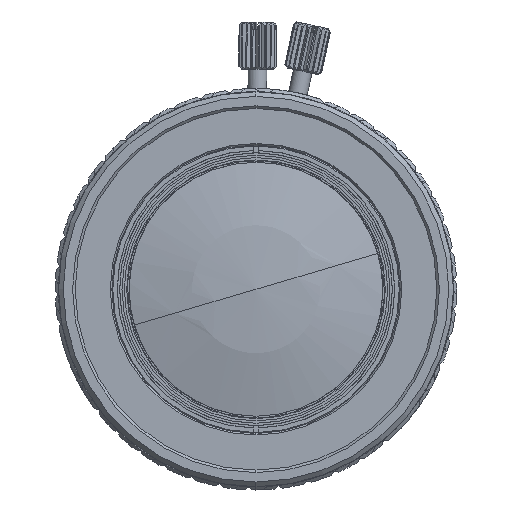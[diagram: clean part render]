
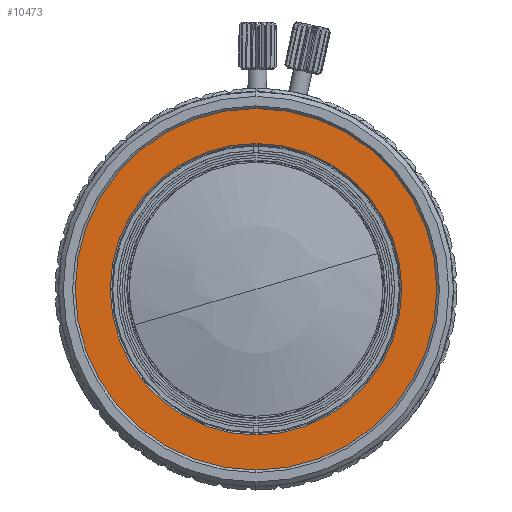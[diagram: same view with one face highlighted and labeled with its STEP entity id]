
A CAD part, left-side view. The second image highlights one B-rep face of the part: STEP entity #10473.
In plain terms, the highlighted planar face has unit normal (-1, 0, 0).
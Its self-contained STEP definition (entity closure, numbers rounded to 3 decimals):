
#9194=CARTESIAN_POINT('',(-3.25,0.,0.));
#9195=DIRECTION('',(-1.,0.,0.));
#9196=DIRECTION('',(0.,0.,1.));
#9197=AXIS2_PLACEMENT_3D('',#9194,#9195,#9196);
#9199=CARTESIAN_POINT('',(-3.25,0.,0.));
#9200=DIRECTION('',(-1.,0.,0.));
#9201=DIRECTION('',(0.,0.,-1.));
#9202=AXIS2_PLACEMENT_3D('',#9199,#9200,#9201);
#9204=CARTESIAN_POINT('',(-3.25,0.,0.));
#9205=DIRECTION('',(1.,0.,0.));
#9206=DIRECTION('',(0.,0.,1.));
#9207=AXIS2_PLACEMENT_3D('',#9204,#9205,#9206);
#9209=CARTESIAN_POINT('',(-3.25,0.,0.));
#9210=DIRECTION('',(1.,0.,0.));
#9211=DIRECTION('',(0.,0.,-1.));
#9212=AXIS2_PLACEMENT_3D('',#9209,#9210,#9211);
#9887=CARTESIAN_POINT('',(-3.25,0.,19.5));
#9889=VERTEX_POINT('',#9887);
#9890=CARTESIAN_POINT('',(-3.25,0.,-19.5));
#9891=VERTEX_POINT('',#9890);
#9898=CARTESIAN_POINT('',(-3.25,0.,-15.5));
#9899=VERTEX_POINT('',#9898);
#9900=CARTESIAN_POINT('',(-3.25,0.,15.5));
#9901=VERTEX_POINT('',#9900);
#10458=CARTESIAN_POINT('',(-3.25,0.,0.));
#10459=DIRECTION('',(1.,0.,0.));
#10460=DIRECTION('',(0.,0.,1.));
#10461=AXIS2_PLACEMENT_3D('',#10458,#10459,#10460);
#10462=PLANE('',#10461);
#10464=ORIENTED_EDGE('',*,*,#10463,.F.);
#10466=ORIENTED_EDGE('',*,*,#10465,.F.);
#10467=EDGE_LOOP('',(#10464,#10466));
#10468=FACE_OUTER_BOUND('',#10467,.F.);
#10469=ORIENTED_EDGE('',*,*,#10256,.F.);
#10470=ORIENTED_EDGE('',*,*,#10440,.F.);
#10471=EDGE_LOOP('',(#10469,#10470));
#10472=FACE_BOUND('',#10471,.F.);
#10473=ADVANCED_FACE('',(#10468,#10472),#10462,.F.);
#9198=CIRCLE('',#9197,19.5);
#9203=CIRCLE('',#9202,19.5);
#9208=CIRCLE('',#9207,15.5);
#9213=CIRCLE('',#9212,15.5);
#10256=EDGE_CURVE('',#9901,#9899,#9208,.T.);
#10440=EDGE_CURVE('',#9899,#9901,#9213,.T.);
#10463=EDGE_CURVE('',#9889,#9891,#9198,.T.);
#10465=EDGE_CURVE('',#9891,#9889,#9203,.T.);
